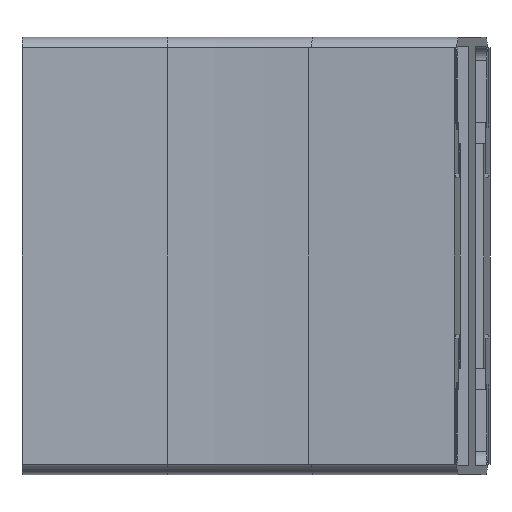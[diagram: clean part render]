
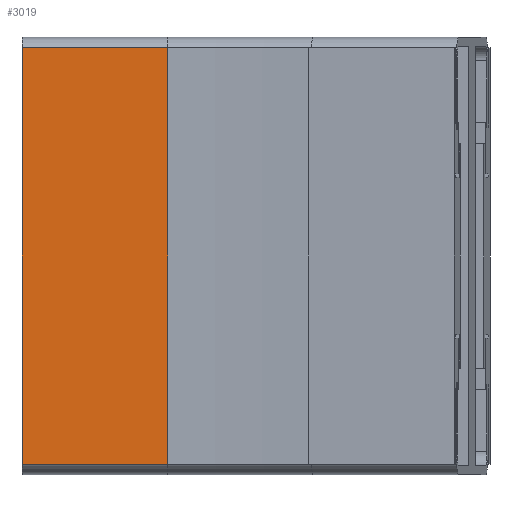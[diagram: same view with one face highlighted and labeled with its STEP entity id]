
A CAD part, front view. The second image highlights one B-rep face of the part: STEP entity #3019.
In plain terms, the highlighted planar face has unit normal (0, -1, 0).
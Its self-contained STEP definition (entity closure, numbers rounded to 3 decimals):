
#97 = DIRECTION ( 'NONE',  ( 0., 0., -1. ) ) ;
#126 = CARTESIAN_POINT ( 'NONE',  ( 0., -56.5, 57.15 ) ) ;
#253 = CARTESIAN_POINT ( 'NONE',  ( 40., -56.5, 0. ) ) ;
#335 = CARTESIAN_POINT ( 'NONE',  ( 0., -56.5, -57.15 ) ) ;
#596 = CARTESIAN_POINT ( 'NONE',  ( 40., -56.5, -57.15 ) ) ;
#653 = LINE ( 'NONE', #2115, #5182 ) ;
#703 = EDGE_CURVE ( 'NONE', #3831, #805, #2053, .T. ) ;
#762 = EDGE_LOOP ( 'NONE', ( #4388, #5466, #2052, #3132 ) ) ;
#805 = VERTEX_POINT ( 'NONE', #2073 ) ;
#853 = LINE ( 'NONE', #2240, #4337 ) ;
#1073 = LINE ( 'NONE', #596, #1479 ) ;
#1075 = DIRECTION ( 'NONE',  ( 0., 0., 1. ) ) ;
#1233 = DIRECTION ( 'NONE',  ( -1., 0., 0. ) ) ;
#1355 = FACE_OUTER_BOUND ( 'NONE', #762, .T. ) ;
#1479 = VECTOR ( 'NONE', #1902, 1000. ) ;
#1486 = DIRECTION ( 'NONE',  ( 0., 1., 0. ) ) ;
#1583 = DIRECTION ( 'NONE',  ( 0., 0., -1. ) ) ;
#1861 = VERTEX_POINT ( 'NONE', #126 ) ;
#1902 = DIRECTION ( 'NONE',  ( -1., 0., 0. ) ) ;
#2052 = ORIENTED_EDGE ( 'NONE', *, *, #5357, .T. ) ;
#2053 = LINE ( 'NONE', #253, #4607 ) ;
#2073 = CARTESIAN_POINT ( 'NONE',  ( 40., -56.5, -57.15 ) ) ;
#2115 = CARTESIAN_POINT ( 'NONE',  ( 40., -56.5, 57.15 ) ) ;
#2240 = CARTESIAN_POINT ( 'NONE',  ( 0., -56.5, -57.15 ) ) ;
#2806 = VERTEX_POINT ( 'NONE', #335 ) ;
#2918 = EDGE_CURVE ( 'NONE', #805, #2806, #1073, .T. ) ;
#3019 = ADVANCED_FACE ( 'NONE', ( #1355 ), #5039, .F. ) ;
#3132 = ORIENTED_EDGE ( 'NONE', *, *, #2918, .F. ) ;
#3327 = CARTESIAN_POINT ( 'NONE',  ( 40., -56.5, 57.15 ) ) ;
#3831 = VERTEX_POINT ( 'NONE', #3327 ) ;
#4337 = VECTOR ( 'NONE', #97, 1000. ) ;
#4388 = ORIENTED_EDGE ( 'NONE', *, *, #703, .F. ) ;
#4415 = EDGE_CURVE ( 'NONE', #3831, #1861, #653, .T. ) ;
#4517 = CARTESIAN_POINT ( 'NONE',  ( 40., -56.5, -57.15 ) ) ;
#4607 = VECTOR ( 'NONE', #1583, 1000. ) ;
#5039 = PLANE ( 'NONE',  #5376 ) ;
#5182 = VECTOR ( 'NONE', #1233, 1000. ) ;
#5357 = EDGE_CURVE ( 'NONE', #1861, #2806, #853, .T. ) ;
#5376 = AXIS2_PLACEMENT_3D ( 'NONE', #4517, #1486, #1075 ) ;
#5466 = ORIENTED_EDGE ( 'NONE', *, *, #4415, .T. ) ;
